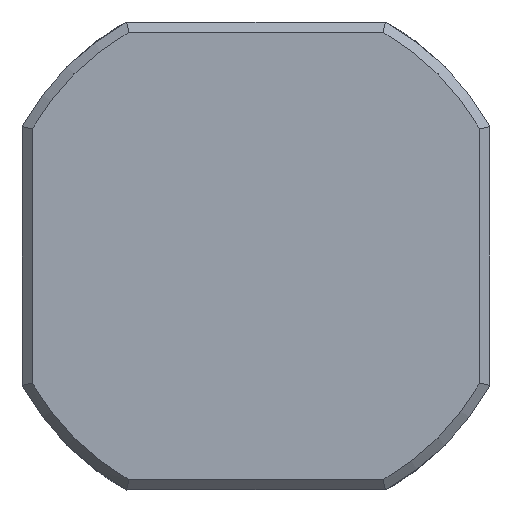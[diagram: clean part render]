
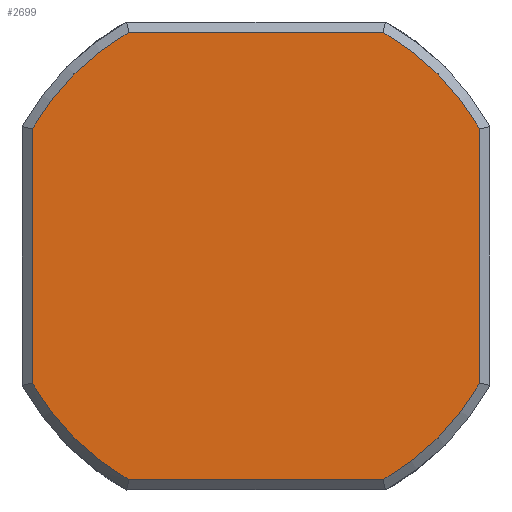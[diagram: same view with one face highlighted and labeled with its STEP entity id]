
A CAD part, left-side view. The second image highlights one B-rep face of the part: STEP entity #2699.
In plain terms, the highlighted planar face has unit normal (-1, 0, 0).
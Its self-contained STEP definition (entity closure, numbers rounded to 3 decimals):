
#23 = VECTOR ( 'NONE', #775, 1000. ) ;
#109 = DIRECTION ( 'NONE',  ( 0., 0., -1. ) ) ;
#206 = EDGE_CURVE ( 'NONE', #653, #1699, #2553, .T. ) ;
#232 = DIRECTION ( 'NONE',  ( 0., 1., 0. ) ) ;
#352 = CARTESIAN_POINT ( 'NONE',  ( -13.25, -6.7, -3.205 ) ) ;
#370 = LINE ( 'NONE', #1093, #575 ) ;
#376 = EDGE_CURVE ( 'NONE', #1698, #818, #593, .T. ) ;
#455 = ORIENTED_EDGE ( 'NONE', *, *, #2101, .T. ) ;
#472 = FACE_OUTER_BOUND ( 'NONE', #1833, .T. ) ;
#540 = DIRECTION ( 'NONE',  ( 0., 1., 0. ) ) ;
#575 = VECTOR ( 'NONE', #232, 1000. ) ;
#582 = AXIS2_PLACEMENT_3D ( 'NONE', #2141, #832, #2378 ) ;
#593 = CIRCLE ( 'NONE', #1761, 7.7 ) ;
#653 = VERTEX_POINT ( 'NONE', #352 ) ;
#684 = DIRECTION ( 'NONE',  ( 0., 1., 0. ) ) ;
#775 = DIRECTION ( 'NONE',  ( 0., -1., 0. ) ) ;
#777 = DIRECTION ( 'NONE',  ( -1., 0., 0. ) ) ;
#812 = VECTOR ( 'NONE', #914, 1000. ) ;
#818 = VERTEX_POINT ( 'NONE', #1989 ) ;
#832 = DIRECTION ( 'NONE',  ( -1., 0., 0. ) ) ;
#876 = EDGE_CURVE ( 'NONE', #1500, #818, #1031, .T. ) ;
#904 = CARTESIAN_POINT ( 'NONE',  ( -13.25, -6.7, -7. ) ) ;
#914 = DIRECTION ( 'NONE',  ( 0., 0., -1. ) ) ;
#942 = AXIS2_PLACEMENT_3D ( 'NONE', #970, #777, #540 ) ;
#970 = CARTESIAN_POINT ( 'NONE',  ( -13.25, 0., -7. ) ) ;
#1031 = LINE ( 'NONE', #1376, #2200 ) ;
#1062 = VERTEX_POINT ( 'NONE', #2343 ) ;
#1092 = LINE ( 'NONE', #2302, #23 ) ;
#1093 = CARTESIAN_POINT ( 'NONE',  ( -13.25, 0., -13.7 ) ) ;
#1102 = DIRECTION ( 'NONE',  ( -1., 0., 0. ) ) ;
#1108 = VERTEX_POINT ( 'NONE', #2353 ) ;
#1118 = DIRECTION ( 'NONE',  ( -1., 0., 0. ) ) ;
#1182 = PLANE ( 'NONE',  #2749 ) ;
#1221 = ORIENTED_EDGE ( 'NONE', *, *, #206, .T. ) ;
#1226 = CARTESIAN_POINT ( 'NONE',  ( -13.25, 3.795, -0.3 ) ) ;
#1267 = EDGE_CURVE ( 'NONE', #1500, #1108, #1867, .T. ) ;
#1309 = ORIENTED_EDGE ( 'NONE', *, *, #376, .T. ) ;
#1376 = CARTESIAN_POINT ( 'NONE',  ( -13.25, 6.7, -7. ) ) ;
#1400 = DIRECTION ( 'NONE',  ( 1., 0., 0. ) ) ;
#1423 = VERTEX_POINT ( 'NONE', #2431 ) ;
#1500 = VERTEX_POINT ( 'NONE', #2035 ) ;
#1556 = CARTESIAN_POINT ( 'NONE',  ( -13.25, -3.795, -0.3 ) ) ;
#1605 = CIRCLE ( 'NONE', #2661, 7.7 ) ;
#1698 = VERTEX_POINT ( 'NONE', #1226 ) ;
#1699 = VERTEX_POINT ( 'NONE', #1556 ) ;
#1730 = CARTESIAN_POINT ( 'NONE',  ( -13.25, 0., -7. ) ) ;
#1761 = AXIS2_PLACEMENT_3D ( 'NONE', #1730, #1118, #684 ) ;
#1833 = EDGE_LOOP ( 'NONE', ( #2190, #455, #2241, #1221, #2372, #1309, #2296, #2063 ) ) ;
#1867 = CIRCLE ( 'NONE', #942, 7.7 ) ;
#1989 = CARTESIAN_POINT ( 'NONE',  ( -13.25, 6.7, -3.205 ) ) ;
#2035 = CARTESIAN_POINT ( 'NONE',  ( -13.25, 6.7, -10.795 ) ) ;
#2063 = ORIENTED_EDGE ( 'NONE', *, *, #1267, .T. ) ;
#2100 = EDGE_CURVE ( 'NONE', #1062, #1108, #370, .T. ) ;
#2101 = EDGE_CURVE ( 'NONE', #1062, #1423, #1605, .T. ) ;
#2141 = CARTESIAN_POINT ( 'NONE',  ( -13.25, 0., -7. ) ) ;
#2190 = ORIENTED_EDGE ( 'NONE', *, *, #2100, .F. ) ;
#2200 = VECTOR ( 'NONE', #2697, 1000. ) ;
#2241 = ORIENTED_EDGE ( 'NONE', *, *, #2265, .F. ) ;
#2265 = EDGE_CURVE ( 'NONE', #653, #1423, #2775, .T. ) ;
#2296 = ORIENTED_EDGE ( 'NONE', *, *, #876, .F. ) ;
#2302 = CARTESIAN_POINT ( 'NONE',  ( -13.25, 0., -0.3 ) ) ;
#2343 = CARTESIAN_POINT ( 'NONE',  ( -13.25, -3.795, -13.7 ) ) ;
#2353 = CARTESIAN_POINT ( 'NONE',  ( -13.25, 3.795, -13.7 ) ) ;
#2372 = ORIENTED_EDGE ( 'NONE', *, *, #2763, .F. ) ;
#2378 = DIRECTION ( 'NONE',  ( 0., 1., 0. ) ) ;
#2431 = CARTESIAN_POINT ( 'NONE',  ( -13.25, -6.7, -10.795 ) ) ;
#2433 = CARTESIAN_POINT ( 'NONE',  ( -13.25, 0., -7. ) ) ;
#2553 = CIRCLE ( 'NONE', #582, 7.7 ) ;
#2649 = DIRECTION ( 'NONE',  ( 0., 1., 0. ) ) ;
#2661 = AXIS2_PLACEMENT_3D ( 'NONE', #2433, #1102, #2649 ) ;
#2697 = DIRECTION ( 'NONE',  ( 0., 0., 1. ) ) ;
#2699 = ADVANCED_FACE ( 'NONE', ( #472 ), #1182, .F. ) ;
#2719 = CARTESIAN_POINT ( 'NONE',  ( -13.25, -6.7, -0.3 ) ) ;
#2749 = AXIS2_PLACEMENT_3D ( 'NONE', #2719, #1400, #109 ) ;
#2763 = EDGE_CURVE ( 'NONE', #1698, #1699, #1092, .T. ) ;
#2775 = LINE ( 'NONE', #904, #812 ) ;
